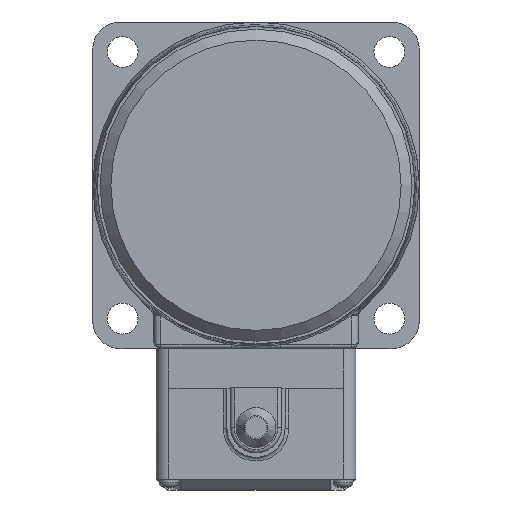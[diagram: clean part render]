
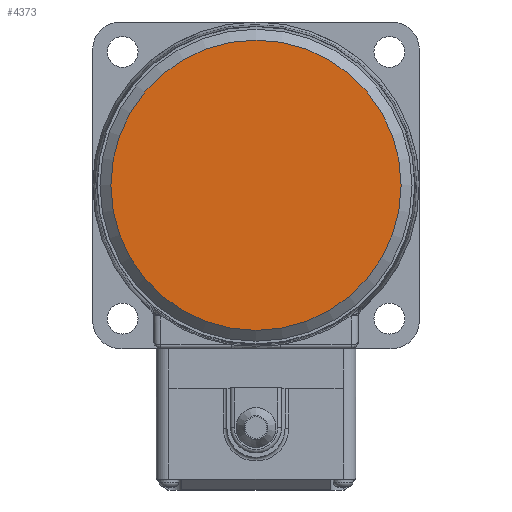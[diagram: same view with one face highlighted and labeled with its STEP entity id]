
A CAD part, left-side view. The second image highlights one B-rep face of the part: STEP entity #4373.
In plain terms, the highlighted planar face has unit normal (-1, 0, 0).
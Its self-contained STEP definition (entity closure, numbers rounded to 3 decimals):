
#192=PLANE('',#4792);
#1065=FACE_OUTER_BOUND('',#1336,.T.);
#1336=EDGE_LOOP('',(#3671));
#1588=CIRCLE('',#4793,40.);
#2034=VERTEX_POINT('',#7822);
#2601=EDGE_CURVE('',#2034,#2034,#1588,.T.);
#3671=ORIENTED_EDGE('',*,*,#2601,.F.);
#4373=ADVANCED_FACE('',(#1065),#192,.T.);
#4792=AXIS2_PLACEMENT_3D('',#7821,#5797,#5798);
#4793=AXIS2_PLACEMENT_3D('',#7823,#5799,#5800);
#5797=DIRECTION('center_axis',(-1.,0.,0.));
#5798=DIRECTION('ref_axis',(0.,0.,1.));
#5799=DIRECTION('center_axis',(1.,0.,0.));
#5800=DIRECTION('ref_axis',(0.,1.,0.));
#7821=CARTESIAN_POINT('Origin',(0.,20.,
0.));
#7822=CARTESIAN_POINT('',(0.,40.,0.));
#7823=CARTESIAN_POINT('Origin',(0.,0.,
0.));
